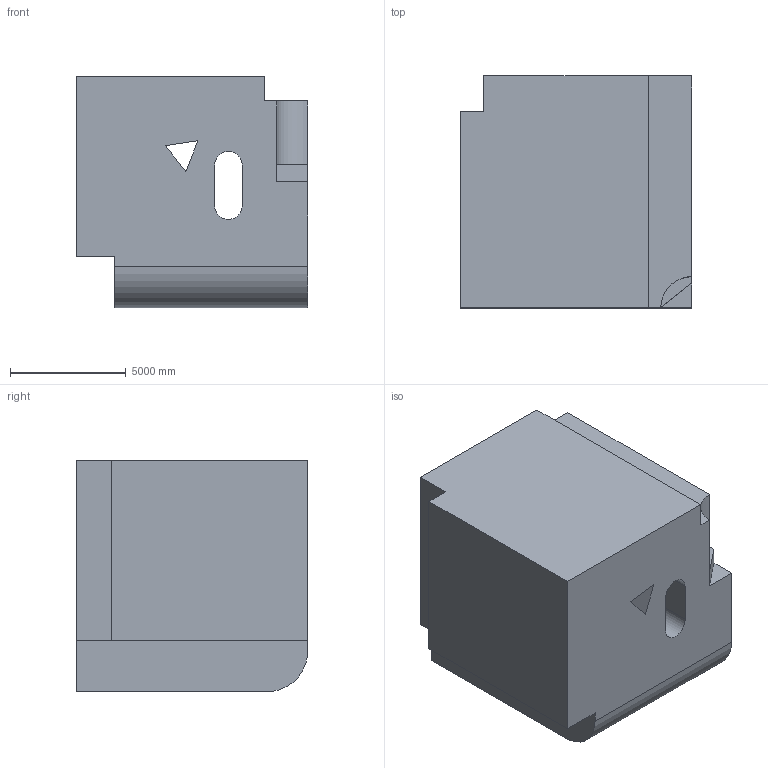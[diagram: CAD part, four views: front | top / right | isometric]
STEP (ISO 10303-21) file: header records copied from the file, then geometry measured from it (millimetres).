
FILE_DESCRIPTION (( 'STEP AP203' ), '1' );
FILE_NAME ('845.STEP', '2022-07-29T13:39:39', ( 'user' ), ( '' ), 'SwSTEP 2.0', 'SolidWorks 2021', '' );
FILE_SCHEMA (( 'CONFIG_CONTROL_DESIGN' ));
Length unit declared in the file: centimetre
Products named in the file (1): 845
Bounding box: 10000 x 10000 x 10000 mm (x, y, z)
Volume: 871169092313 mm3; surface area: 678981701 mm2
Topology: 1 solids, 1 shells, 27 faces, 75 edges, 50 vertices
Faces by surface type: plane 21, cylinder 6
Entity records: 946 total; most frequent: CARTESIAN_POINT 153, ORIENTED_EDGE 150, DIRECTION 143, EDGE_CURVE 75, VECTOR 63, LINE 63, VERTEX_POINT 50, AXIS2_PLACEMENT_3D 40
